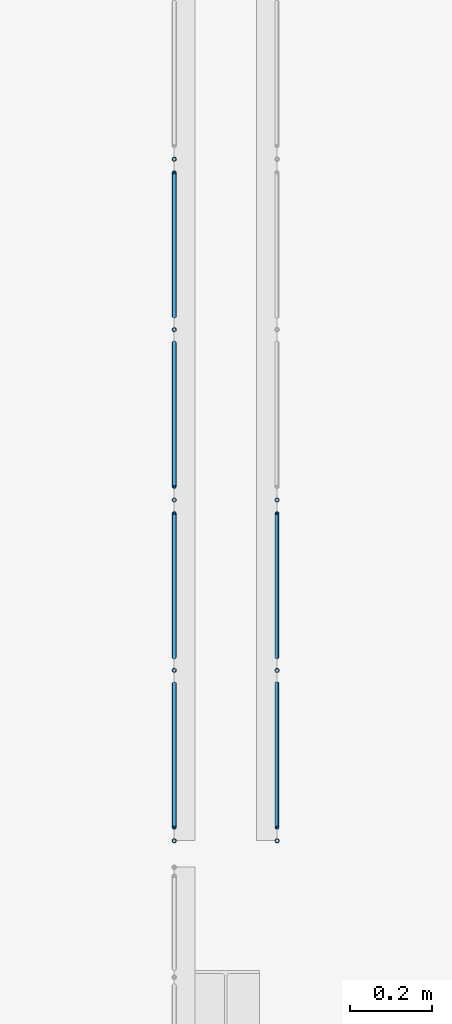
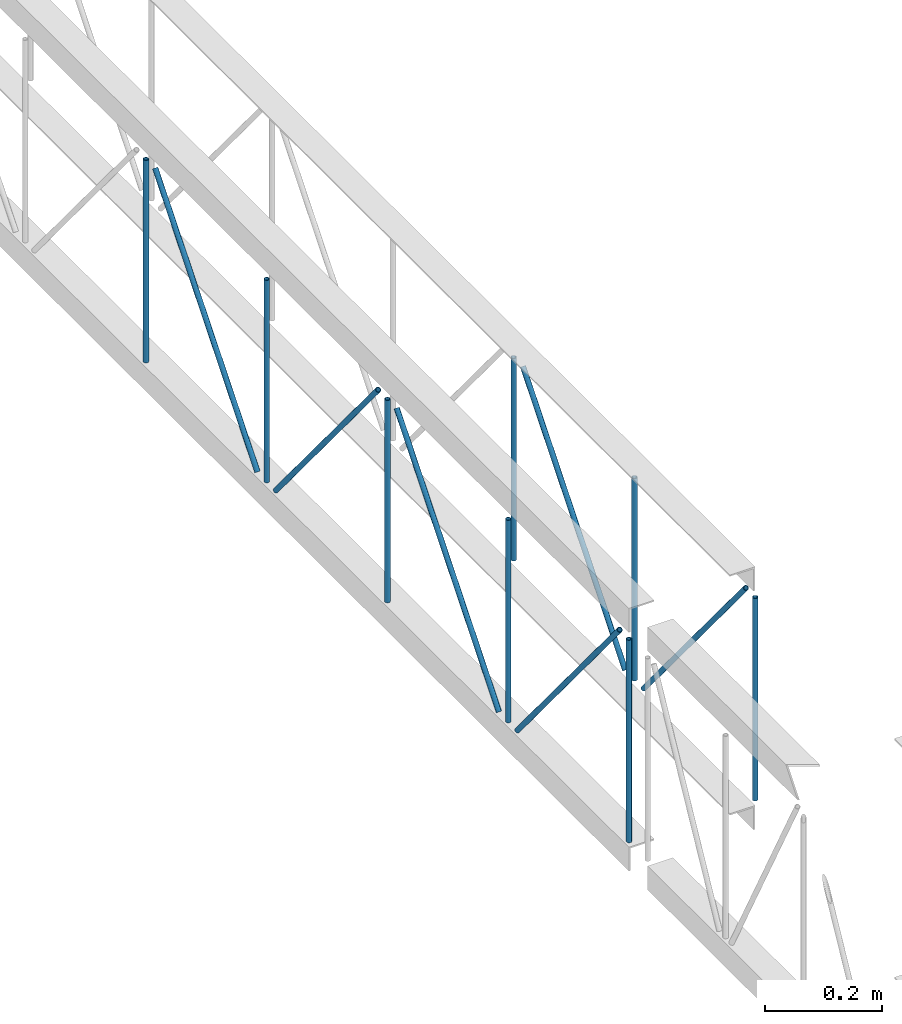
# One storey, part 22 of 153: 14 members, 2 elements without a shape of their own.
"""IFC4 building model written with IfcOpenShell, lengths in metres."""

import ifcopenshell
import ifcopenshell.guid

model = None  # the IFC model being written
_history = None  # IfcOwnerHistory: only IFC2X3 demands one
_inside = {}  # id of a spatial element -> (the spatial element, [elements in it])
_under = {}  # id of a project, library or spatial element -> (it, [spatial elements below it])
_declared = {}  # id of a project -> (the project, [libraries it declares])
_typed = {}  # id of a type object -> (the type object, [elements of that type])
_made_of = {}  # id of a material, layer set ... -> (it, [elements and type objects made of it])


def new_model(schema):
    """Start an empty IFC model of exactly this schema.

    Asked for "IFC4X3", IfcOpenShell would pick the latest addendum, in which some entities
    have other attributes; the version numbers below select the first issue.
    IFC2X3 requires an IfcOwnerHistory on every rooted entity: one is made here for all.
    """
    global model, _history
    if schema == "IFC4X3":
        model = ifcopenshell.file(schema_version=(4, 3, 0, 0))
    else:
        model = ifcopenshell.file(schema=schema)
    _inside.clear()
    _under.clear()
    _declared.clear()
    _typed.clear()
    _made_of.clear()
    _history = None
    if model.schema == "IFC2X3":
        org = make("IfcOrganization", Name="unknown")
        user = make(
            "IfcPersonAndOrganization",
            ThePerson=make("IfcPerson", FamilyName="unknown"),
            TheOrganization=org,
        )
        app = make(
            "IfcApplication",
            ApplicationDeveloper=org,
            Version="unknown",
            ApplicationFullName="unknown",
            ApplicationIdentifier="unknown",
        )
        _history = make(
            "IfcOwnerHistory",
            OwningUser=user,
            OwningApplication=app,
            ChangeAction="ADDED",
            CreationDate=0,
        )
    return model


def make(cls, **values):
    """One entity of the class cls with the attributes given. An attribute that is None is left unset."""
    return model.create_entity(
        cls, **{name: value for name, value in values.items() if value is not None}
    )


def entity(cls, *values):
    """Any entity or typed value of the class cls, its attributes in the order of the schema. None: left unset."""
    e = model.create_entity(cls)
    for i, value in enumerate(values):
        if value is not None:
            e[i] = value
    return e


def rooted(cls, **values):
    """An entity with a GlobalId (a new one), such as an element, a storey or a relation."""
    return make(cls, GlobalId=ifcopenshell.guid.new(), OwnerHistory=_history, **values)


def si_unit(unit_type, name, prefix=None):
    """IfcSIUnit, for example si_unit("LENGTHUNIT", "METRE", prefix="MILLI")."""
    return make("IfcSIUnit", UnitType=unit_type, Prefix=prefix, Name=name)


def converted_unit(unit_type, name, factor, base, dimensions=None, offset=None):
    """IfcConversionBasedUnit, such as the inch: factor (a typed value) times the base unit."""
    return make(
        "IfcConversionBasedUnit"
        if offset is None
        else "IfcConversionBasedUnitWithOffset",
        ConversionOffset=offset,
        Dimensions=None
        if dimensions is None
        else entity("IfcDimensionalExponents", *dimensions),
        UnitType=unit_type,
        Name=name,
        ConversionFactor=make(
            "IfcMeasureWithUnit", ValueComponent=factor, UnitComponent=base
        ),
    )


def derived_unit(unit_type, elements):
    """IfcDerivedUnit: a product of units, each with its exponent."""
    return make(
        "IfcDerivedUnit",
        Elements=[
            make("IfcDerivedUnitElement", Unit=unit, Exponent=power)
            for unit, power in elements
        ],
        UnitType=unit_type,
    )


def assignment(units):
    """IfcUnitAssignment: the units of a project."""
    return None if units is None else make("IfcUnitAssignment", Units=units)


def point(xyz):
    """IfcCartesianPoint."""
    return None if xyz is None else make("IfcCartesianPoint", Coordinates=xyz)


def direction(xyz):
    """IfcDirection."""
    return None if xyz is None else make("IfcDirection", DirectionRatios=xyz)


def frame(location, z_axis=None, x_axis=None):
    """IfcAxis2Placement3D, a coordinate frame: its origin and axes. An axis left out is left unset."""
    return make(
        "IfcAxis2Placement3D",
        Location=point(location),
        Axis=direction(z_axis),
        RefDirection=direction(x_axis),
    )


def origin():
    """The frame at (0, 0, 0) with its axes left unset."""
    return frame((0.0, 0.0, 0.0))


def place(relative_to, where):
    """IfcLocalPlacement: puts the frame where relative to a parent placement (None: the world)."""
    return make(
        "IfcLocalPlacement", PlacementRelTo=relative_to, RelativePlacement=where
    )


def context(
    kind, dimensions, precision=None, world=None, true_north=None, identifier=None
):
    """IfcGeometricRepresentationContext, for example the 3D "Model" context."""
    return make(
        "IfcGeometricRepresentationContext",
        ContextIdentifier=identifier,
        ContextType=kind,
        CoordinateSpaceDimension=dimensions,
        Precision=precision,
        WorldCoordinateSystem=world,
        TrueNorth=true_north,
    )


def subcontext(parent, identifier, kind, view, scale=None):
    """IfcGeometricRepresentationSubContext, for example "Body" below "Model"."""
    return make(
        "IfcGeometricRepresentationSubContext",
        ContextIdentifier=identifier,
        ContextType=kind,
        ParentContext=parent,
        TargetScale=scale,
        TargetView=view,
    )


def project(units=None, contexts=None):
    """IfcProject with its units and contexts."""
    return rooted(
        "IfcProject",
        Name="project",
        RepresentationContexts=contexts,
        UnitsInContext=assignment(units),
    )


def spatial(cls, under=None, at=None, **own):
    """A site, building, storey or space (cls), placed at a placement, below another one or the project."""
    s = rooted(cls, ObjectPlacement=at, **own)
    if under is not None:
        _under.setdefault(under.id(), (under, []))[1].append(s)
    return s


def point_list(points):
    """IfcCartesianPointList2D or 3D."""
    cls = (
        "IfcCartesianPointList2D" if len(points[0]) == 2 else "IfcCartesianPointList3D"
    )
    return make(cls, CoordList=points)


def arc(*indices):
    """IfcArcIndex: an arc through three numbered points of an indexed curve."""
    return model.create_entity("IfcArcIndex", indices)


def indexed_curve(points, segments=None, self_intersect=None):
    """IfcIndexedPolyCurve: lines and arcs through numbered points (the first is 1)."""
    return make(
        "IfcIndexedPolyCurve",
        Points=point_list(points),
        Segments=segments,
        SelfIntersect=self_intersect,
    )


def outline(outer, holes=None, kind="AREA"):
    """IfcArbitraryClosedProfileDef: a profile drawn as a closed curve; with holes, ...WithVoids."""
    if holes is None:
        return make("IfcArbitraryClosedProfileDef", ProfileType=kind, OuterCurve=outer)
    return make(
        "IfcArbitraryProfileDefWithVoids",
        ProfileType=kind,
        OuterCurve=outer,
        InnerCurves=holes,
    )


def extrude(swept, where, along, depth):
    """IfcExtrudedAreaSolid: the profile swept, set in the frame where, extruded along a direction by depth."""
    return make(
        "IfcExtrudedAreaSolid",
        SweptArea=swept,
        Position=where,
        ExtrudedDirection=direction(along),
        Depth=depth,
    )


def shape(context_of_items, identifier, shape_type, items):
    """IfcShapeRepresentation: the items that make up one representation, for example the "Body"."""
    return make(
        "IfcShapeRepresentation",
        ContextOfItems=context_of_items,
        RepresentationIdentifier=identifier,
        RepresentationType=shape_type,
        Items=items,
    )


def source(mapping_origin, context_of_items, identifier, shape_type, items):
    """IfcRepresentationMap: a shape defined once, which mapped items show again and again."""
    return make(
        "IfcRepresentationMap",
        MappingOrigin=mapping_origin,
        MappedRepresentation=shape(context_of_items, identifier, shape_type, items),
    )


def transform(
    local_origin,
    x_axis=None,
    y_axis=None,
    z_axis=None,
    scale=None,
    scale2=None,
    scale3=None,
    uniform=True,
):
    """IfcCartesianTransformationOperator3D, or its non-uniform kind. x_axis, y_axis, z_axis: its Axis1, 2, 3."""
    if uniform:
        return make(
            "IfcCartesianTransformationOperator3D",
            Axis1=direction(x_axis),
            Axis2=direction(y_axis),
            LocalOrigin=point(local_origin),
            Scale=scale,
            Axis3=direction(z_axis),
        )
    return make(
        "IfcCartesianTransformationOperator3DnonUniform",
        Axis1=direction(x_axis),
        Axis2=direction(y_axis),
        LocalOrigin=point(local_origin),
        Scale=scale,
        Axis3=direction(z_axis),
        Scale2=scale2,
        Scale3=scale3,
    )


def mapped(mapping_source, mapping_target):
    """IfcMappedItem: shows the shape of a source again, moved by a transform."""
    return make(
        "IfcMappedItem", MappingSource=mapping_source, MappingTarget=mapping_target
    )


def material(Name=None, Category=None):
    """IfcMaterial."""
    return make("IfcMaterial", Name=Name, Category=Category)


def made_of(thing, what):
    """Note that an element or type object is made of a material, layer set ...; save() writes the relation."""
    if what is not None:
        _made_of.setdefault(what.id(), (what, []))[1].append(thing)
    return thing


def type_object(cls, material=None, **own):
    """A type object (cls), such as IfcWallType, which elements share."""
    return made_of(rooted(cls, **own), material)


def type_shapes(of_type, sources):
    """Give a type object the sources (RepresentationMaps) that its elements show as mapped items."""
    of_type.RepresentationMaps = sources


def element(
    cls,
    number,
    at=None,
    inside=None,
    cuts=None,
    type_object=None,
    material=None,
    context=None,
    identifier="Body",
    shape_type=None,
    held_by="IfcProductDefinitionShape",
    body=None,
    shapes=None,
    **own,
):
    """One element of the class cls, such as IfcWall. Its Tag is "e" and its number.

    at: its placement. inside: the storey or other place that contains it. cuts: it is an
    opening in that element (IfcRelVoidsElement). A single representation is given by context,
    identifier, shape_type and body (its items); several are given by shapes. held_by: the class
    of the entity that holds the representations. save() writes the other relations.
    """
    e = rooted(cls, Tag="e%d" % number, ObjectPlacement=at, **own)
    if body is not None:
        shapes = [shape(context, identifier, shape_type, body)]
    if shapes is not None:
        e.Representation = make(held_by, Representations=shapes)
    if inside is not None:
        _inside.setdefault(inside.id(), (inside, []))[1].append(e)
    if cuts is not None:
        rooted(
            "IfcRelVoidsElement", RelatingBuildingElement=cuts, RelatedOpeningElement=e
        )
    if type_object is not None:
        _typed.setdefault(type_object.id(), (type_object, []))[1].append(e)
    return made_of(e, material)


def aggregate(whole, parts):
    """IfcRelAggregates: a whole, such as a stair, and the parts it consists of."""
    return rooted("IfcRelAggregates", RelatingObject=whole, RelatedObjects=parts)


def save(model, path):
    """Write the relations noted so far, then the file.

    IfcRelAggregates (storeys below a building ...), IfcRelContainedInSpatialStructure (elements
    in a storey), IfcRelDefinesByType, IfcRelAssociatesMaterial and IfcRelDeclares: one each for
    every whole, place, type object, material and project.
    """
    for whole, parts in _under.values():
        aggregate(whole, parts)
    for where, things in _inside.values():
        rooted(
            "IfcRelContainedInSpatialStructure",
            RelatedElements=things,
            RelatingStructure=where,
        )
    for kind, things in _typed.values():
        rooted("IfcRelDefinesByType", RelatedObjects=things, RelatingType=kind)
    for what, things in _made_of.values():
        rooted("IfcRelAssociatesMaterial", RelatedObjects=things, RelatingMaterial=what)
    for by, libraries in _declared.values():
        rooted("IfcRelDeclares", RelatingContext=by, RelatedDefinitions=libraries)
    model.write(path)


model = new_model("IFC4")

# Units and contexts
model_context = context("Model", 3, precision=1e-05, world=origin(), true_north=direction((6.123031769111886e-17, 1.0)))
body_context = subcontext(model_context, "Body", "Model", "MODEL_VIEW")
ifc_project = project(units=[si_unit("LENGTHUNIT", "METRE"), si_unit("AREAUNIT", "SQUARE_METRE"), si_unit("VOLUMEUNIT", "CUBIC_METRE"), converted_unit("PLANEANGLEUNIT", "DEGREE", entity("IfcRatioMeasure", 0.017453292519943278), si_unit("PLANEANGLEUNIT", "RADIAN"), dimensions=[0, 0, 0, 0, 0, 0, 0]), si_unit("MASSUNIT", "GRAM", prefix="KILO"), derived_unit("MASSDENSITYUNIT", [(si_unit("MASSUNIT", "GRAM", prefix="KILO"), 1), (si_unit("LENGTHUNIT", "METRE"), -3)]), derived_unit("MOMENTOFINERTIAUNIT", [(si_unit("LENGTHUNIT", "METRE"), 4)]), si_unit("TIMEUNIT", "SECOND"), si_unit("FREQUENCYUNIT", "HERTZ"), si_unit("THERMODYNAMICTEMPERATUREUNIT", "DEGREE_CELSIUS"), derived_unit("THERMALTRANSMITTANCEUNIT", [(si_unit("MASSUNIT", "GRAM", prefix="KILO"), 1), (si_unit("THERMODYNAMICTEMPERATUREUNIT", "KELVIN"), -1), (si_unit("TIMEUNIT", "SECOND"), -3)]), derived_unit("VOLUMETRICFLOWRATEUNIT", [(si_unit("LENGTHUNIT", "METRE"), 3), (si_unit("TIMEUNIT", "SECOND"), -1)]), derived_unit("MASSFLOWRATEUNIT", [(si_unit("MASSUNIT", "GRAM", prefix="KILO"), 1), (si_unit("TIMEUNIT", "SECOND"), -1)]), derived_unit("ROTATIONALFREQUENCYUNIT", [(si_unit("TIMEUNIT", "SECOND"), -1)]), si_unit("ELECTRICCURRENTUNIT", "AMPERE"), si_unit("ELECTRICVOLTAGEUNIT", "VOLT"), si_unit("POWERUNIT", "WATT"), si_unit("FORCEUNIT", "NEWTON", prefix="KILO"), si_unit("ILLUMINANCEUNIT", "LUX"), si_unit("LUMINOUSFLUXUNIT", "LUMEN"), si_unit("LUMINOUSINTENSITYUNIT", "CANDELA"), derived_unit("USERDEFINED", [(si_unit("MASSUNIT", "GRAM", prefix="KILO"), -1), (si_unit("LENGTHUNIT", "METRE"), -2), (si_unit("TIMEUNIT", "SECOND"), 3), (si_unit("LUMINOUSFLUXUNIT", "LUMEN"), 1)]), derived_unit("SOUNDPOWERUNIT", [(si_unit("MASSUNIT", "GRAM", prefix="KILO"), 1), (si_unit("LENGTHUNIT", "METRE"), 2), (si_unit("TIMEUNIT", "SECOND"), -3)]), derived_unit("SOUNDPRESSUREUNIT", [(si_unit("MASSUNIT", "GRAM", prefix="KILO"), 1), (si_unit("LENGTHUNIT", "METRE"), -1), (si_unit("TIMEUNIT", "SECOND"), -2)]), derived_unit("LINEARVELOCITYUNIT", [(si_unit("LENGTHUNIT", "METRE"), 1), (si_unit("TIMEUNIT", "SECOND"), -1)]), si_unit("PRESSUREUNIT", "PASCAL"), derived_unit("USERDEFINED", [(si_unit("LENGTHUNIT", "METRE"), -2), (si_unit("MASSUNIT", "GRAM", prefix="KILO"), 1), (si_unit("TIMEUNIT", "SECOND"), -2)]), derived_unit("LINEARFORCEUNIT", [(si_unit("MASSUNIT", "GRAM", prefix="KILO"), 1), (si_unit("LENGTHUNIT", "METRE"), 1), (si_unit("TIMEUNIT", "SECOND"), -2), (si_unit("LENGTHUNIT", "METRE"), -1)]), derived_unit("PLANARFORCEUNIT", [(si_unit("MASSUNIT", "GRAM", prefix="KILO"), 1), (si_unit("LENGTHUNIT", "METRE"), 1), (si_unit("TIMEUNIT", "SECOND"), -2), (si_unit("LENGTHUNIT", "METRE"), -2)])], contexts=[model_context])

# Site, building, storey
site_placement = place(None, origin())
site = spatial("IfcSite", under=ifc_project, at=site_placement, Name="Superficie", CompositionType="ELEMENT")
building_placement = place(site_placement, origin())
building = spatial("IfcBuilding", under=site, at=building_placement, CompositionType="ELEMENT")
storey_placement = place(building_placement, frame((0.0, 0.0, 3.5999999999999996)))
storey = spatial("IfcBuildingStorey", under=building, at=storey_placement, Name="Nivel 1", CompositionType="ELEMENT", Elevation=3.5999999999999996)

# Assembly, members
assembly_1_placement = place(storey_placement, origin())
assembly_1 = element("IfcElementAssembly", 1, at=assembly_1_placement, inside=storey, Name="Viga de celosia 13:Viga de celosia 13", ObjectType="Viga de celosia 13:Viga de celosia 13", AssemblyPlace="NOTDEFINED", PredefinedType="TRUSS")
ifc_material = material(Name="Metal - Calibre delgado", Category="Metal")
member_type_1 = type_object("IfcMemberType", Name="HSS-Tubo estructural redondo:HSS 0.01", PredefinedType="BRACE", material=ifc_material)
shared_shape_1 = source(origin(), body_context, "Body", "SweptSolid", [
    extrude(outline(indexed_curve([(-0.005000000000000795, 7.502054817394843e-18), (-9.800269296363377e-18, -0.005000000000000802), (0.005000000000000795, -7.502054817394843e-18), (8.07772287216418e-18, 0.005000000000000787)], segments=[arc(1, 2, 3), arc(3, 4, 1)], self_intersect=False), holes=[indexed_curve([(0.003999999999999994, 7.222511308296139e-17), (6.910645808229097e-17, -0.004000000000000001), (-0.003999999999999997, -1.8650054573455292e-17), (-2.9156497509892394e-17, 0.003999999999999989)], segments=[arc(1, 2, 3), arc(3, 4, 1)], self_intersect=False)]), frame((-0.21200000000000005, 0.0, 0.0), z_axis=(1.0, 0.0, 0.0), x_axis=(0.0, 1.0, 0.0)), (0.0, 0.0, 1.0), 0.4240000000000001),
])
type_shapes(member_type_1, [shared_shape_1])
member_1_placement = place(assembly_1_placement, frame((-18.703200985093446, -9.134451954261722, 0.25), z_axis=(0.0, 1.0, 0.0), x_axis=(0.0, 0.0, 1.0)))
member_1 = element("IfcMember", 2, at=member_1_placement, type_object=member_type_1, material=ifc_material, Name="HSS-Tubo estructural redondo:HSS 0.01", ObjectType="HSS-Tubo estructural redondo:HSS 0.01", PredefinedType="BRACE", context=body_context, shape_type="MappedRepresentation", body=[
    mapped(shared_shape_1, transform((0.0, 0.0, 0.0), scale=1.0)),
])
member_2_placement = place(assembly_1_placement, frame((-18.703200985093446, -8.720105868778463, 0.25), z_axis=(0.0, 1.0, 0.0), x_axis=(0.0, 0.0, 1.0)))
member_2 = element("IfcMember", 3, at=member_2_placement, type_object=member_type_1, material=ifc_material, Name="HSS-Tubo estructural redondo:HSS 0.01", ObjectType="HSS-Tubo estructural redondo:HSS 0.01", PredefinedType="BRACE", context=body_context, shape_type="MappedRepresentation", body=[
    mapped(shared_shape_1, transform((0.0, 0.0, 0.0), scale=1.0)),
])
member_3_placement = place(assembly_1_placement, frame((-18.703200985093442, -8.305759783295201, 0.25), z_axis=(0.0, 1.0, 0.0), x_axis=(0.0, 0.0, 1.0)))
member_3 = element("IfcMember", 4, at=member_3_placement, type_object=member_type_1, material=ifc_material, Name="HSS-Tubo estructural redondo:HSS 0.01", ObjectType="HSS-Tubo estructural redondo:HSS 0.01", PredefinedType="BRACE", context=body_context, shape_type="MappedRepresentation", body=[
    mapped(shared_shape_1, transform((0.0, 0.0, 0.0), scale=1.0)),
])
member_4_placement = place(assembly_1_placement, frame((-18.703200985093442, -7.89141369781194, 0.25), z_axis=(0.0, 1.0, 0.0), x_axis=(0.0, 0.0, 1.0)))
member_4 = element("IfcMember", 5, at=member_4_placement, type_object=member_type_1, material=ifc_material, Name="HSS-Tubo estructural redondo:HSS 0.01", ObjectType="HSS-Tubo estructural redondo:HSS 0.01", PredefinedType="BRACE", context=body_context, shape_type="MappedRepresentation", body=[
    mapped(shared_shape_1, transform((0.0, 0.0, 0.0), scale=1.0)),
])
member_5_placement = place(assembly_1_placement, frame((-18.703200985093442, -7.47706761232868, 0.25), z_axis=(0.0, 1.0, 0.0), x_axis=(0.0, 0.0, 1.0)))
member_5 = element("IfcMember", 6, at=member_5_placement, type_object=member_type_1, material=ifc_material, Name="HSS-Tubo estructural redondo:HSS 0.01", ObjectType="HSS-Tubo estructural redondo:HSS 0.01", PredefinedType="BRACE", context=body_context, shape_type="MappedRepresentation", body=[
    mapped(shared_shape_1, transform((0.0, 0.0, 0.0), scale=1.0)),
])
member_type_2 = type_object("IfcMemberType", Name="HSS-Tubo estructural redondo:HSS 0.01", PredefinedType="BRACE", material=ifc_material)
shared_shape_2 = source(origin(), body_context, "Body", "SweptSolid", [
    extrude(outline(indexed_curve([(-0.005000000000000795, 7.502054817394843e-18), (-9.800269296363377e-18, -0.005000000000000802), (0.005000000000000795, -7.502054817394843e-18), (8.07772287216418e-18, 0.005000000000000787)], segments=[arc(1, 2, 3), arc(3, 4, 1)], self_intersect=False), holes=[indexed_curve([(0.003999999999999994, 7.222511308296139e-17), (6.910645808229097e-17, -0.004000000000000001), (-0.003999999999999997, -1.8650054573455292e-17), (-2.9156497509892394e-17, 0.003999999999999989)], segments=[arc(1, 2, 3), arc(3, 4, 1)], self_intersect=False)]), frame((-0.275, 0.0, 0.0), z_axis=(1.0, 0.0, 0.0), x_axis=(0.0, 1.0, 0.0)), (0.0, 0.0, 1.0), 0.55),
])
type_shapes(member_type_2, [shared_shape_2])
member_6_placement = place(assembly_1_placement, frame((-18.703200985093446, -8.927278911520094, 0.25), z_axis=(0.0, -0.7699758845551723, -0.638072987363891), x_axis=(0.0, 0.638072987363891, -0.7699758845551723)))
member_6 = element("IfcMember", 7, at=member_6_placement, type_object=member_type_2, material=ifc_material, Name="HSS-Tubo estructural redondo:HSS 0.01", ObjectType="HSS-Tubo estructural redondo:HSS 0.01", PredefinedType="BRACE", context=body_context, shape_type="MappedRepresentation", body=[
    mapped(shared_shape_2, transform((0.0, 0.0, 0.0), scale=1.0)),
])
member_7_placement = place(assembly_1_placement, frame((-18.703200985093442, -8.512932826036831, 0.2500000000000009), z_axis=(0.0, 0.7699758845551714, -0.638072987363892), x_axis=(0.0, 0.638072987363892, 0.7699758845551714)))
member_7 = element("IfcMember", 8, at=member_7_placement, type_object=member_type_2, material=ifc_material, Name="HSS-Tubo estructural redondo:HSS 0.01", ObjectType="HSS-Tubo estructural redondo:HSS 0.01", PredefinedType="BRACE", context=body_context, shape_type="MappedRepresentation", body=[
    mapped(shared_shape_2, transform((0.0, 0.0, 0.0), scale=1.0)),
])
member_8_placement = place(assembly_1_placement, frame((-18.703200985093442, -8.098586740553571, 0.25), z_axis=(0.0, -0.7699758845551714, -0.638072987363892), x_axis=(0.0, 0.638072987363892, -0.7699758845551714)))
member_8 = element("IfcMember", 9, at=member_8_placement, type_object=member_type_2, material=ifc_material, Name="HSS-Tubo estructural redondo:HSS 0.01", ObjectType="HSS-Tubo estructural redondo:HSS 0.01", PredefinedType="BRACE", context=body_context, shape_type="MappedRepresentation", body=[
    mapped(shared_shape_2, transform((0.0, 0.0, 0.0), scale=1.0)),
])
member_9_placement = place(assembly_1_placement, frame((-18.703200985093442, -7.68424065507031, 0.25000000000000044), z_axis=(0.0, 0.7699758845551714, -0.638072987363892), x_axis=(0.0, 0.638072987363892, 0.7699758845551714)))
member_9 = element("IfcMember", 10, at=member_9_placement, type_object=member_type_2, material=ifc_material, Name="HSS-Tubo estructural redondo:HSS 0.01", ObjectType="HSS-Tubo estructural redondo:HSS 0.01", PredefinedType="BRACE", context=body_context, shape_type="MappedRepresentation", body=[
    mapped(shared_shape_2, transform((0.0, 0.0, 0.0), scale=1.0)),
])
aggregate(assembly_1, [member_1, member_2, member_3, member_4, member_5, member_6, member_7, member_8, member_9])

assembly_2_placement = place(storey_placement, origin())
assembly_2 = element("IfcElementAssembly", 11, at=assembly_2_placement, inside=storey, Name="Viga de celosia 13:Viga de celosia 13", ObjectType="Viga de celosia 13:Viga de celosia 13", AssemblyPlace="NOTDEFINED", PredefinedType="TRUSS")
member_type_3 = type_object("IfcMemberType", Name="HSS-Tubo estructural redondo:HSS 0.01", PredefinedType="BRACE", material=ifc_material)
shared_shape_3 = source(origin(), body_context, "Body", "SweptSolid", [
    extrude(outline(indexed_curve([(-0.005000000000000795, 2.0824731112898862e-17), (-2.3122945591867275e-17, -0.005000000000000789), (0.005000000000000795, -2.08247311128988e-17), (2.14003991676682e-17, 0.005000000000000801)], segments=[arc(1, 2, 3), arc(3, 4, 1)], self_intersect=False), holes=[indexed_curve([(0.003999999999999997, -1.3094283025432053e-17), (-1.531427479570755e-18, -0.003999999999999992), (-0.004, 4.0098531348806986e-17), (4.1481388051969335e-17, 0.0039999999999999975)], segments=[arc(1, 2, 3), arc(3, 4, 1)], self_intersect=False)]), frame((-0.21200000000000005, 0.0, 0.0), z_axis=(1.0, 0.0, 0.0), x_axis=(0.0, -1.0, 0.0)), (0.0, 0.0, 1.0), 0.4240000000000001),
])
type_shapes(member_type_3, [shared_shape_3])
member_10_placement = place(assembly_2_placement, frame((-18.453200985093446, -9.134451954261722, 0.25), z_axis=(0.0, 1.0, 0.0), x_axis=(0.0, 0.0, 1.0)))
member_10 = element("IfcMember", 12, at=member_10_placement, type_object=member_type_3, material=ifc_material, Name="HSS-Tubo estructural redondo:HSS 0.01", ObjectType="HSS-Tubo estructural redondo:HSS 0.01", PredefinedType="BRACE", context=body_context, shape_type="MappedRepresentation", body=[
    mapped(shared_shape_3, transform((0.0, 0.0, 0.0), scale=1.0)),
])
member_11_placement = place(assembly_2_placement, frame((-18.453200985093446, -8.720105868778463, 0.25), z_axis=(0.0, 1.0, 0.0), x_axis=(0.0, 0.0, 1.0)))
member_11 = element("IfcMember", 13, at=member_11_placement, type_object=member_type_3, material=ifc_material, Name="HSS-Tubo estructural redondo:HSS 0.01", ObjectType="HSS-Tubo estructural redondo:HSS 0.01", PredefinedType="BRACE", context=body_context, shape_type="MappedRepresentation", body=[
    mapped(shared_shape_3, transform((0.0, 0.0, 0.0), scale=1.0)),
])
member_12_placement = place(assembly_2_placement, frame((-18.453200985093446, -8.305759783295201, 0.25), z_axis=(0.0, 1.0, 0.0), x_axis=(0.0, 0.0, 1.0)))
member_12 = element("IfcMember", 14, at=member_12_placement, type_object=member_type_3, material=ifc_material, Name="HSS-Tubo estructural redondo:HSS 0.01", ObjectType="HSS-Tubo estructural redondo:HSS 0.01", PredefinedType="BRACE", context=body_context, shape_type="MappedRepresentation", body=[
    mapped(shared_shape_3, transform((0.0, 0.0, 0.0), scale=1.0)),
])
member_type_4 = type_object("IfcMemberType", Name="HSS-Tubo estructural redondo:HSS 0.01", PredefinedType="BRACE", material=ifc_material)
shared_shape_4 = source(origin(), body_context, "Body", "SweptSolid", [
    extrude(outline(indexed_curve([(-0.005000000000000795, 2.0824731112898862e-17), (-2.3122945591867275e-17, -0.005000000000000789), (0.005000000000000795, -2.08247311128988e-17), (2.14003991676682e-17, 0.005000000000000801)], segments=[arc(1, 2, 3), arc(3, 4, 1)], self_intersect=False), holes=[indexed_curve([(0.003999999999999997, -1.3094283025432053e-17), (-1.531427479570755e-18, -0.003999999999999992), (-0.004, 4.0098531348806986e-17), (4.1481388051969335e-17, 0.0039999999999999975)], segments=[arc(1, 2, 3), arc(3, 4, 1)], self_intersect=False)]), frame((-0.275, 0.0, 0.0), z_axis=(1.0, 0.0, 0.0), x_axis=(0.0, -1.0, 0.0)), (0.0, 0.0, 1.0), 0.55),
])
type_shapes(member_type_4, [shared_shape_4])
member_13_placement = place(assembly_2_placement, frame((-18.453200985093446, -8.927278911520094, 0.25), z_axis=(0.0, -0.7699758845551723, -0.638072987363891), x_axis=(0.0, 0.638072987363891, -0.7699758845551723)))
member_13 = element("IfcMember", 15, at=member_13_placement, type_object=member_type_4, material=ifc_material, Name="HSS-Tubo estructural redondo:HSS 0.01", ObjectType="HSS-Tubo estructural redondo:HSS 0.01", PredefinedType="BRACE", context=body_context, shape_type="MappedRepresentation", body=[
    mapped(shared_shape_4, transform((0.0, 0.0, 0.0), scale=1.0)),
])
member_14_placement = place(assembly_2_placement, frame((-18.453200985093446, -8.512932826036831, 0.2500000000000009), z_axis=(0.0, 0.7699758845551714, -0.638072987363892), x_axis=(0.0, 0.638072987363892, 0.7699758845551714)))
member_14 = element("IfcMember", 16, at=member_14_placement, type_object=member_type_4, material=ifc_material, Name="HSS-Tubo estructural redondo:HSS 0.01", ObjectType="HSS-Tubo estructural redondo:HSS 0.01", PredefinedType="BRACE", context=body_context, shape_type="MappedRepresentation", body=[
    mapped(shared_shape_4, transform((0.0, 0.0, 0.0), scale=1.0)),
])
aggregate(assembly_2, [member_10, member_11, member_12, member_13, member_14])

save(model, "model.ifc")
